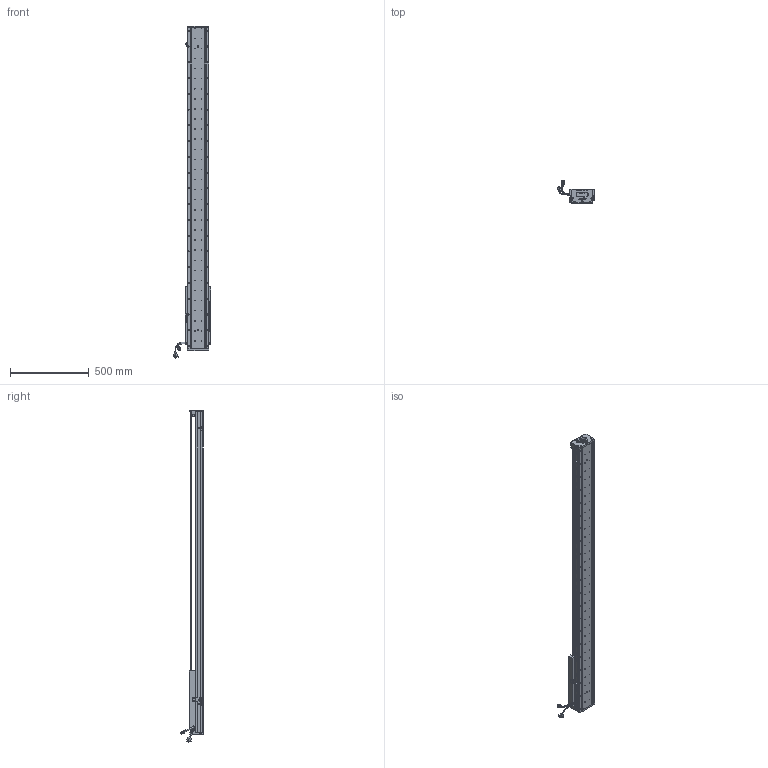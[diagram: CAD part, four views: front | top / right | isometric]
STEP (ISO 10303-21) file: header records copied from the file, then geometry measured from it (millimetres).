
FILE_DESCRIPTION (( 'STEP AP203' ), '1' );
FILE_NAME ('Z5-RY140D-1-L500-B-K.SLDASM_1600.step', '2021-05-17T08:37:13', ( '盈信电脑' ), ( '东莞市道滘镇水果街19号' ), 'SwSTEP 2.0', 'SolidWorks 2016', '' );
FILE_SCHEMA (( 'CONFIG_CONTROL_DESIGN' ));
Length unit declared in the file: millimetre
Products named in the file (36): Z5-RY140D-1-L500-B-K.SLDASM_1600; Z5-RY140-L500詩湍100mm遵_1600; SEAL-Part-1; Z-RY140感应器672光电感应片; Z5-RY140圉猾敕臏賑輸(21遴); 詩湍狟揤裔; SCREW-M1.7-1; SEAL; 080黍杅芛假蚾釱21遴; HOLDER0; SCALE-Part-2; SCREW-M1.7; 140蚥薯蝶輸; 140雄赽晤鎢ん堤盄; SHIELDPLATE; COVER-Part-1; 詩湍奻揤裔; SCREW-M1.6-1; LABEL-Part-1; SCREW-M1.6; COVER; 140-Z-臏賑輸盄裔(21遴); HARNESS-Part-2; Z5-RY140-L500直线电机模组底座_1600; Z-140詩湍傷裔啣; HARNESS-Part-1; SCALE-Part-1; PSLH080_PSLF2; 覜茼ん672; 榋妏寠巭燃_暯_M2_2; SCALE; SCREW-M1.6-3; PBU_SHEET; SCREW-M1.6-2; LABEL; HARNESS
Assembly tree (41 placements, depth 4):
  Z5-RY140D-1-L500-B-K.SLDASM_1600
    Z5-RY140-L500直线电机模组底座_1600
    Z-RY140感应器672光电感应片
    Z5-RY140圉猾敕臏賑輸(21遴)
    覜茼ん672  x3
    Z5-RY140-L500詩湍100mm遵_1600
    PSLH080_PSLF2
      SCALE
        SCALE-Part-1
        SCALE-Part-2
      HARNESS
        HARNESS-Part-1
        HARNESS-Part-2
      LABEL
        LABEL-Part-1
      COVER
        COVER-Part-1
      SEAL
        SEAL-Part-1
      榋妏寠巭燃_暯_M2_2
      SHIELDPLATE
      SCREW-M1.7
      SCREW-M1.7-1
      PBU_SHEET
      SCREW-M1.6
      SCREW-M1.6-1
      SCREW-M1.6-2
      SCREW-M1.6-3
      HOLDER0
    080黍杅芛假蚾釱21遴
    140-Z-臏賑輸盄裔(21遴)
    Z-140詩湍傷裔啣  x2
    詩湍狟揤裔  x2
    詩湍奻揤裔  x2
    140蚥薯蝶輸  x2
    140雄赽晤鎢ん堤盄
Bounding box: 239.84 x 143.88 x 2105.87 mm (x, y, z)
Volume: 7346379.7 mm3; surface area: 1872076.5 mm2
Topology: 36 solids, 36 shells, 3812 faces, 10288 edges, 6523 vertices
Faces by surface type: cylinder 2014, plane 1310, cone 366, torus 69, bspline 53
Entity records: 118832 total; most frequent: CARTESIAN_POINT 32599, ORIENTED_EDGE 17568, DIRECTION 16584, EDGE_CURVE 8784, AXIS2_PLACEMENT_3D 6172, VERTEX_POINT 5691, LINE 4240, VECTOR 4240
